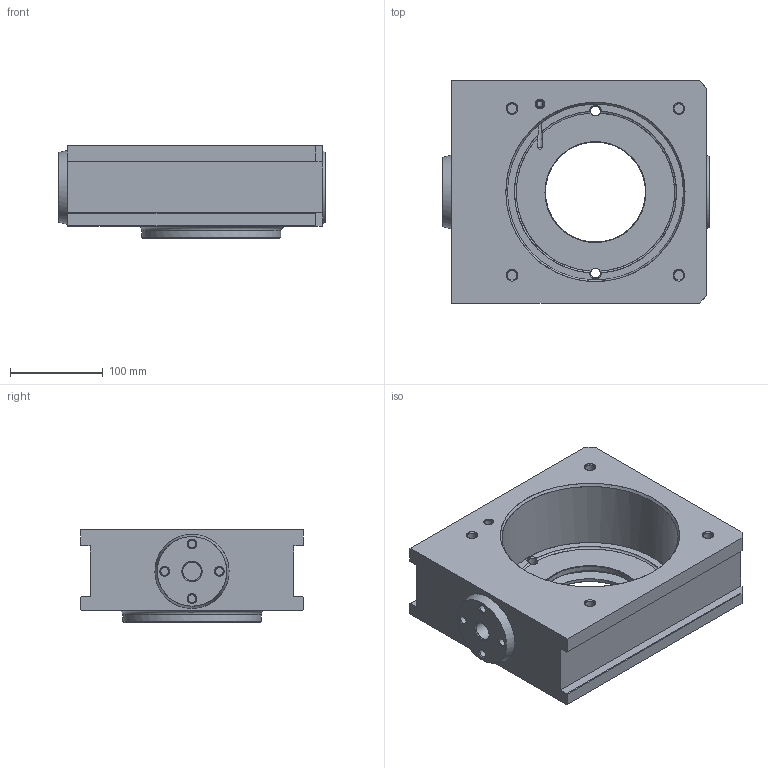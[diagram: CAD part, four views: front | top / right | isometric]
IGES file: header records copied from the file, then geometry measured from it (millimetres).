
Start section: VISI-Series Layer Mapping Iges    VISI-Series  0      LAYER0  1      LAYER1  2      WARNINGS
Global section: file name: C:\Documents and Settings\oem\Desktop\106.igs; native system: VISI-Series Rel. 12.1; preprocessor: 2.0; author: oem; organization: Unknown; date: 20141104.145833; units: millimetre
Bounding box: 288 x 240 x 100 mm (x, y, z)
Surface area: 291486.6 mm2 (no closed solid volume)
Topology: 0 solids, 0 shells, 110 faces, 1654 edges, 1597 vertices
Faces by surface type: bspline 110
